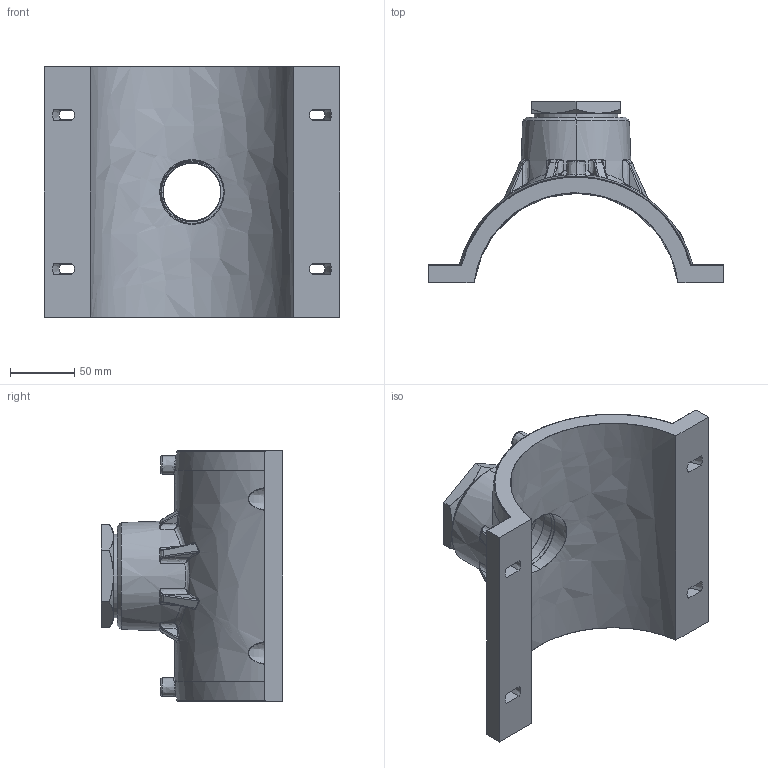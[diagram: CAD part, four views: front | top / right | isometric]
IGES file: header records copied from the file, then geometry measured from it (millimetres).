
Start section:  PTC IGES file: vam-rg_d160_1_1_2_01.igs
Global section: file name: vam-rg_d160_1_1_2_01.igs; native system: Pro/ENGINEER by Parametric Technology Corporation; preprocessor: 2011490; author: mtunjic; organization: Unknown; date: 20130909.104958; units: millimetre
Bounding box: 230 x 141.5 x 195 mm (x, y, z)
Surface area: 163595.7 mm2 (no closed solid volume)
Topology: 0 solids, 0 shells, 475 faces, 2366 edges, 2366 vertices
Faces by surface type: bspline 475
